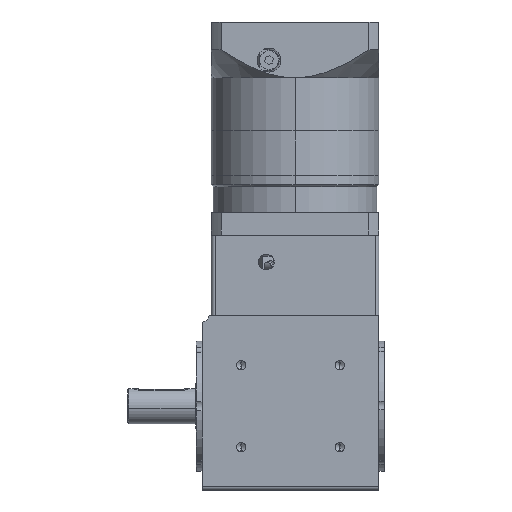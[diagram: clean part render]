
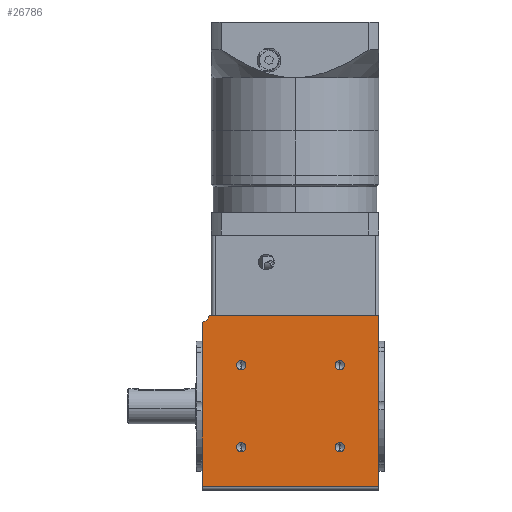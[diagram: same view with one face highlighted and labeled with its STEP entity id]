
A CAD part, front view. The second image highlights one B-rep face of the part: STEP entity #26786.
In plain terms, the highlighted planar face has unit normal (0, -1, 0).
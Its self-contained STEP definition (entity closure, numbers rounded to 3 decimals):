
#329 = VERTEX_POINT ( 'NONE', #35759 ) ;
#655 = AXIS2_PLACEMENT_3D ( 'NONE', #19478, #42480, #22783 ) ;
#1287 = VERTEX_POINT ( 'NONE', #35471 ) ;
#1437 = CARTESIAN_POINT ( 'NONE',  ( -16.743, -60.486, 67. ) ) ;
#1854 = VERTEX_POINT ( 'NONE', #41727 ) ;
#2162 = EDGE_LOOP ( 'NONE', ( #38841, #13629 ) ) ;
#2682 = VECTOR ( 'NONE', #34790, 1000. ) ;
#4614 = DIRECTION ( 'NONE',  ( 0., -1., 0. ) ) ;
#4729 = DIRECTION ( 'NONE',  ( 0., 0., -1. ) ) ;
#4809 = EDGE_CURVE ( 'NONE', #27533, #1287, #28686, .T. ) ;
#5334 = FACE_BOUND ( 'NONE', #2162, .T. ) ;
#6395 = AXIS2_PLACEMENT_3D ( 'NONE', #13290, #33136, #13428 ) ;
#6568 = AXIS2_PLACEMENT_3D ( 'NONE', #11272, #34305, #14598 ) ;
#7306 = VERTEX_POINT ( 'NONE', #24121 ) ;
#7313 = EDGE_CURVE ( 'NONE', #39394, #16598, #22903, .T. ) ;
#7469 = CARTESIAN_POINT ( 'NONE',  ( 57.257, -60.486, 94. ) ) ;
#7629 = ORIENTED_EDGE ( 'NONE', *, *, #20729, .F. ) ;
#7799 = ORIENTED_EDGE ( 'NONE', *, *, #4809, .F. ) ;
#8057 = CIRCLE ( 'NONE', #655, 2.5 ) ;
#8566 = CARTESIAN_POINT ( 'NONE',  ( -38.743, -60.486, 95. ) ) ;
#9037 = CARTESIAN_POINT ( 'NONE',  ( 36.257, -60.486, 67. ) ) ;
#10146 = EDGE_CURVE ( 'NONE', #22003, #38052, #11421, .T. ) ;
#10651 = AXIS2_PLACEMENT_3D ( 'NONE', #8566, #31610, #11905 ) ;
#11272 = CARTESIAN_POINT ( 'NONE',  ( -16.743, -60.486, 67. ) ) ;
#11287 = VECTOR ( 'NONE', #14278, 1000. ) ;
#11421 = LINE ( 'NONE', #28190, #2682 ) ;
#11782 = CARTESIAN_POINT ( 'NONE',  ( -33.844, -60.486, 94. ) ) ;
#11887 = CARTESIAN_POINT ( 'NONE',  ( 36.257, -60.486, 23. ) ) ;
#11905 = DIRECTION ( 'NONE',  ( 0., 0., -1. ) ) ;
#11980 = EDGE_CURVE ( 'NONE', #23772, #37839, #8057, .T. ) ;
#12041 = AXIS2_PLACEMENT_3D ( 'NONE', #1437, #24511, #4729 ) ;
#12329 = DIRECTION ( 'NONE',  ( 1., 0., 0. ) ) ;
#12356 = DIRECTION ( 'NONE',  ( 0., -1., 0. ) ) ;
#12375 = DIRECTION ( 'NONE',  ( 0., 0., -1. ) ) ;
#12857 = ORIENTED_EDGE ( 'NONE', *, *, #28811, .F. ) ;
#13290 = CARTESIAN_POINT ( 'NONE',  ( -37.743, -60.486, 94. ) ) ;
#13399 = EDGE_CURVE ( 'NONE', #16598, #39394, #42034, .T. ) ;
#13428 = DIRECTION ( 'NONE',  ( 0., 0., 1. ) ) ;
#13629 = ORIENTED_EDGE ( 'NONE', *, *, #28809, .F. ) ;
#14120 = FACE_BOUND ( 'NONE', #23799, .T. ) ;
#14259 = EDGE_CURVE ( 'NONE', #38052, #7306, #24977, .T. ) ;
#14278 = DIRECTION ( 'NONE',  ( 0., 0., -1. ) ) ;
#14528 = EDGE_LOOP ( 'NONE', ( #16540, #20179, #40285, #7799, #35164 ) ) ;
#14598 = DIRECTION ( 'NONE',  ( 0., 0., -1. ) ) ;
#15225 = DIRECTION ( 'NONE',  ( 0., 0., -1. ) ) ;
#15283 = CARTESIAN_POINT ( 'NONE',  ( -37.743, -60.486, 94. ) ) ;
#16132 = ORIENTED_EDGE ( 'NONE', *, *, #23281, .F. ) ;
#16250 = VECTOR ( 'NONE', #12329, 1000. ) ;
#16289 = EDGE_CURVE ( 'NONE', #1854, #41999, #34168, .T. ) ;
#16540 = ORIENTED_EDGE ( 'NONE', *, *, #10146, .T. ) ;
#16598 = VERTEX_POINT ( 'NONE', #20848 ) ;
#16599 = CARTESIAN_POINT ( 'NONE',  ( -37.743, -60.486, 90.101 ) ) ;
#16641 = PLANE ( 'NONE',  #6395 ) ;
#19007 = CARTESIAN_POINT ( 'NONE',  ( -16.743, -60.486, 23. ) ) ;
#19478 = CARTESIAN_POINT ( 'NONE',  ( 36.257, -60.486, 23. ) ) ;
#19794 = CIRCLE ( 'NONE', #21636, 2.5 ) ;
#19960 = VECTOR ( 'NONE', #25196, 1000. ) ;
#20115 = AXIS2_PLACEMENT_3D ( 'NONE', #11887, #34898, #15225 ) ;
#20161 = CIRCLE ( 'NONE', #20115, 2.5 ) ;
#20179 = ORIENTED_EDGE ( 'NONE', *, *, #14259, .T. ) ;
#20729 = EDGE_CURVE ( 'NONE', #329, #22753, #26433, .T. ) ;
#20848 = CARTESIAN_POINT ( 'NONE',  ( -16.743, -60.486, 69.5 ) ) ;
#21313 = CARTESIAN_POINT ( 'NONE',  ( 36.257, -60.486, 25.5 ) ) ;
#21636 = AXIS2_PLACEMENT_3D ( 'NONE', #32054, #12356, #35368 ) ;
#22003 = VERTEX_POINT ( 'NONE', #16599 ) ;
#22318 = DIRECTION ( 'NONE',  ( 0., 0., -1. ) ) ;
#22753 = VERTEX_POINT ( 'NONE', #32481 ) ;
#22783 = DIRECTION ( 'NONE',  ( 0., 0., -1. ) ) ;
#22903 = CIRCLE ( 'NONE', #6568, 2.5 ) ;
#22916 = FACE_BOUND ( 'NONE', #33409, .T. ) ;
#23281 = EDGE_CURVE ( 'NONE', #37839, #23772, #20161, .T. ) ;
#23772 = VERTEX_POINT ( 'NONE', #29673 ) ;
#23799 = EDGE_LOOP ( 'NONE', ( #7629, #12857 ) ) ;
#24121 = CARTESIAN_POINT ( 'NONE',  ( 57.257, -60.486, 2. ) ) ;
#24393 = CARTESIAN_POINT ( 'NONE',  ( -16.743, -60.486, 23. ) ) ;
#24511 = DIRECTION ( 'NONE',  ( 0., -1., 0. ) ) ;
#24977 = LINE ( 'NONE', #35199, #16250 ) ;
#25196 = DIRECTION ( 'NONE',  ( 1., 0., 0. ) ) ;
#26050 = AXIS2_PLACEMENT_3D ( 'NONE', #19007, #42020, #22318 ) ;
#26433 = CIRCLE ( 'NONE', #29672, 2.5 ) ;
#26786 = ADVANCED_FACE ( 'NONE', ( #22916, #5334, #14120, #39348, #30575 ), #16641, .F. ) ;
#27533 = VERTEX_POINT ( 'NONE', #11782 ) ;
#27681 = DIRECTION ( 'NONE',  ( 0., 0., -1. ) ) ;
#28190 = CARTESIAN_POINT ( 'NONE',  ( -37.743, -60.486, 94. ) ) ;
#28475 = ORIENTED_EDGE ( 'NONE', *, *, #13399, .F. ) ;
#28686 = LINE ( 'NONE', #15283, #19960 ) ;
#28689 = ORIENTED_EDGE ( 'NONE', *, *, #7313, .F. ) ;
#28809 = EDGE_CURVE ( 'NONE', #41999, #1854, #19794, .T. ) ;
#28811 = EDGE_CURVE ( 'NONE', #22753, #329, #35193, .T. ) ;
#29672 = AXIS2_PLACEMENT_3D ( 'NONE', #24393, #4614, #27681 ) ;
#29673 = CARTESIAN_POINT ( 'NONE',  ( 36.257, -60.486, 20.5 ) ) ;
#30370 = CARTESIAN_POINT ( 'NONE',  ( -16.743, -60.486, 64.5 ) ) ;
#30575 = FACE_OUTER_BOUND ( 'NONE', #14528, .T. ) ;
#31610 = DIRECTION ( 'NONE',  ( 0., -1., 0. ) ) ;
#32054 = CARTESIAN_POINT ( 'NONE',  ( 36.257, -60.486, 67. ) ) ;
#32080 = DIRECTION ( 'NONE',  ( 0., -1., 0. ) ) ;
#32356 = EDGE_CURVE ( 'NONE', #1287, #7306, #37539, .T. ) ;
#32481 = CARTESIAN_POINT ( 'NONE',  ( -16.743, -60.486, 25.5 ) ) ;
#33136 = DIRECTION ( 'NONE',  ( 0., 1., 0. ) ) ;
#33319 = CIRCLE ( 'NONE', #10651, 5. ) ;
#33409 = EDGE_LOOP ( 'NONE', ( #28689, #28475 ) ) ;
#34063 = CARTESIAN_POINT ( 'NONE',  ( 36.257, -60.486, 69.5 ) ) ;
#34073 = ORIENTED_EDGE ( 'NONE', *, *, #11980, .F. ) ;
#34168 = CIRCLE ( 'NONE', #39960, 2.5 ) ;
#34305 = DIRECTION ( 'NONE',  ( 0., -1., 0. ) ) ;
#34443 = EDGE_LOOP ( 'NONE', ( #34073, #16132 ) ) ;
#34790 = DIRECTION ( 'NONE',  ( 0., 0., -1. ) ) ;
#34898 = DIRECTION ( 'NONE',  ( 0., -1., 0. ) ) ;
#35164 = ORIENTED_EDGE ( 'NONE', *, *, #38581, .F. ) ;
#35193 = CIRCLE ( 'NONE', #26050, 2.5 ) ;
#35199 = CARTESIAN_POINT ( 'NONE',  ( 57.257, -60.486, 2. ) ) ;
#35368 = DIRECTION ( 'NONE',  ( 0., 0., -1. ) ) ;
#35471 = CARTESIAN_POINT ( 'NONE',  ( 57.257, -60.486, 94. ) ) ;
#35759 = CARTESIAN_POINT ( 'NONE',  ( -16.743, -60.486, 20.5 ) ) ;
#37539 = LINE ( 'NONE', #7469, #11287 ) ;
#37839 = VERTEX_POINT ( 'NONE', #21313 ) ;
#38052 = VERTEX_POINT ( 'NONE', #39402 ) ;
#38581 = EDGE_CURVE ( 'NONE', #22003, #27533, #33319, .T. ) ;
#38841 = ORIENTED_EDGE ( 'NONE', *, *, #16289, .F. ) ;
#39348 = FACE_BOUND ( 'NONE', #34443, .T. ) ;
#39394 = VERTEX_POINT ( 'NONE', #30370 ) ;
#39402 = CARTESIAN_POINT ( 'NONE',  ( -37.743, -60.486, 2. ) ) ;
#39960 = AXIS2_PLACEMENT_3D ( 'NONE', #9037, #32080, #12375 ) ;
#40285 = ORIENTED_EDGE ( 'NONE', *, *, #32356, .F. ) ;
#41727 = CARTESIAN_POINT ( 'NONE',  ( 36.257, -60.486, 64.5 ) ) ;
#41999 = VERTEX_POINT ( 'NONE', #34063 ) ;
#42020 = DIRECTION ( 'NONE',  ( 0., -1., 0. ) ) ;
#42034 = CIRCLE ( 'NONE', #12041, 2.5 ) ;
#42480 = DIRECTION ( 'NONE',  ( 0., -1., 0. ) ) ;
